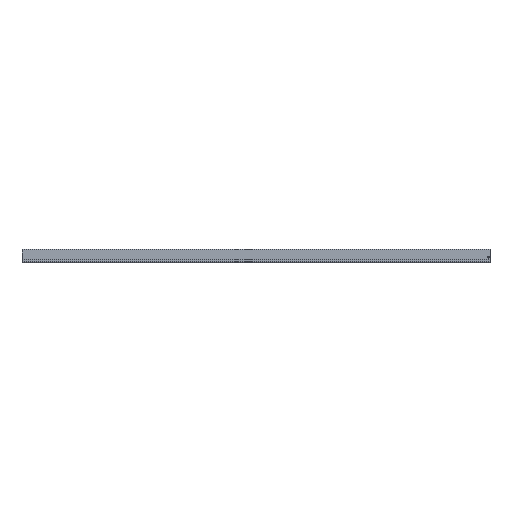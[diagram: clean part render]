
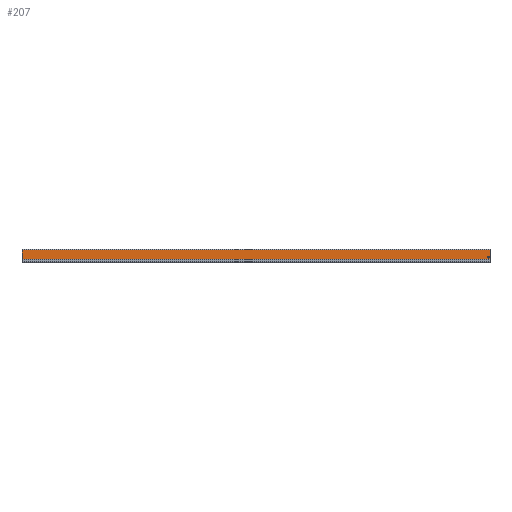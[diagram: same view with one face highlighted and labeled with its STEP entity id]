
A CAD part, top view. The second image highlights one B-rep face of the part: STEP entity #207.
In plain terms, the highlighted planar face has unit normal (0, 0, 1).
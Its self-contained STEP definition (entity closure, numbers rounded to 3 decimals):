
#40 = ORIENTED_EDGE ( 'NONE', *, *, #1390, .T. ) ;
#160 = EDGE_CURVE ( 'NONE', #1318, #1710, #1910, .T. ) ;
#207 = ADVANCED_FACE ( 'NONE', ( #2138, #1662 ), #1540, .F. ) ;
#252 = DIRECTION ( 'NONE',  ( 0., -1., 0. ) ) ;
#277 = EDGE_CURVE ( 'NONE', #1047, #1710, #2223, .T. ) ;
#286 = CARTESIAN_POINT ( 'NONE',  ( 970., 0., 0. ) ) ;
#442 = CARTESIAN_POINT ( 'NONE',  ( 0., 6.6, 0. ) ) ;
#444 = EDGE_CURVE ( 'NONE', #1519, #2113, #494, .T. ) ;
#445 = AXIS2_PLACEMENT_3D ( 'NONE', #1072, #2157, #2174 ) ;
#446 = CARTESIAN_POINT ( 'NONE',  ( 0., 6.6, 0. ) ) ;
#461 = LINE ( 'NONE', #1160, #2150 ) ;
#471 = DIRECTION ( 'NONE',  ( -1., 0., 0. ) ) ;
#494 = CIRCLE ( 'NONE', #445, 1.85 ) ;
#572 = EDGE_LOOP ( 'NONE', ( #787, #652, #40, #1043 ) ) ;
#646 = DIRECTION ( 'NONE',  ( -1., 0., 0. ) ) ;
#652 = ORIENTED_EDGE ( 'NONE', *, *, #1105, .T. ) ;
#692 = DIRECTION ( 'NONE',  ( 0., 0., 1. ) ) ;
#693 = EDGE_CURVE ( 'NONE', #2113, #1519, #1104, .T. ) ;
#787 = ORIENTED_EDGE ( 'NONE', *, *, #160, .F. ) ;
#977 = DIRECTION ( 'NONE',  ( 1., 0., 0. ) ) ;
#1001 = AXIS2_PLACEMENT_3D ( 'NONE', #286, #1536, #646 ) ;
#1043 = ORIENTED_EDGE ( 'NONE', *, *, #277, .T. ) ;
#1047 = VERTEX_POINT ( 'NONE', #446 ) ;
#1053 = CARTESIAN_POINT ( 'NONE',  ( 967.15, 11.392, 0. ) ) ;
#1072 = CARTESIAN_POINT ( 'NONE',  ( 967.15, 11.392, 0. ) ) ;
#1104 = CIRCLE ( 'NONE', #2182, 1.85 ) ;
#1105 = EDGE_CURVE ( 'NONE', #1318, #1466, #461, .T. ) ;
#1160 = CARTESIAN_POINT ( 'NONE',  ( 970., 26.7, 0. ) ) ;
#1248 = CARTESIAN_POINT ( 'NONE',  ( 970., 6.6, 0. ) ) ;
#1269 = EDGE_LOOP ( 'NONE', ( #1488, #1490 ) ) ;
#1314 = VECTOR ( 'NONE', #1657, 1000. ) ;
#1318 = VERTEX_POINT ( 'NONE', #2032 ) ;
#1362 = CARTESIAN_POINT ( 'NONE',  ( 965.3, 11.392, 0. ) ) ;
#1390 = EDGE_CURVE ( 'NONE', #1466, #1047, #2147, .T. ) ;
#1444 = VECTOR ( 'NONE', #977, 1000. ) ;
#1466 = VERTEX_POINT ( 'NONE', #2090 ) ;
#1488 = ORIENTED_EDGE ( 'NONE', *, *, #444, .F. ) ;
#1490 = ORIENTED_EDGE ( 'NONE', *, *, #693, .F. ) ;
#1519 = VERTEX_POINT ( 'NONE', #1362 ) ;
#1536 = DIRECTION ( 'NONE',  ( 0., 0., -1. ) ) ;
#1540 = PLANE ( 'NONE',  #1001 ) ;
#1657 = DIRECTION ( 'NONE',  ( 0., -1., 0. ) ) ;
#1662 = FACE_OUTER_BOUND ( 'NONE', #572, .T. ) ;
#1669 = VECTOR ( 'NONE', #252, 1000. ) ;
#1710 = VERTEX_POINT ( 'NONE', #1248 ) ;
#1854 = CARTESIAN_POINT ( 'NONE',  ( 970., 0., 0. ) ) ;
#1910 = LINE ( 'NONE', #1854, #1314 ) ;
#2025 = CARTESIAN_POINT ( 'NONE',  ( 0., 0., 0. ) ) ;
#2032 = CARTESIAN_POINT ( 'NONE',  ( 970., 26.7, 0. ) ) ;
#2090 = CARTESIAN_POINT ( 'NONE',  ( 0., 26.7, 0. ) ) ;
#2113 = VERTEX_POINT ( 'NONE', #2140 ) ;
#2138 = FACE_BOUND ( 'NONE', #1269, .T. ) ;
#2140 = CARTESIAN_POINT ( 'NONE',  ( 969., 11.392, 0. ) ) ;
#2147 = LINE ( 'NONE', #2025, #1669 ) ;
#2150 = VECTOR ( 'NONE', #471, 1000. ) ;
#2157 = DIRECTION ( 'NONE',  ( 0., 0., 1. ) ) ;
#2174 = DIRECTION ( 'NONE',  ( -1., 0., 0. ) ) ;
#2182 = AXIS2_PLACEMENT_3D ( 'NONE', #1053, #692, #2290 ) ;
#2223 = LINE ( 'NONE', #442, #1444 ) ;
#2290 = DIRECTION ( 'NONE',  ( -1., 0., 0. ) ) ;
